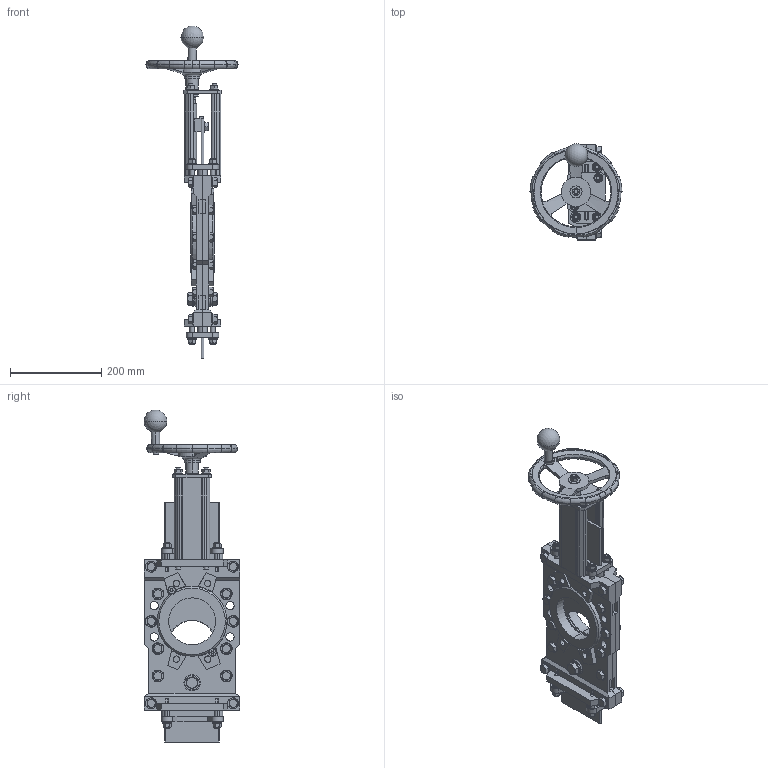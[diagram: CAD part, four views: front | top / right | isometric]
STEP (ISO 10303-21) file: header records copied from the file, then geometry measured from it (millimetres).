
FILE_DESCRIPTION(('STEP AP203'),'1');
FILE_NAME('G:/KONSTRUK/3-d block för CD/HG VALVE/HAND WHEEL/HG100-PN10-HW.stp','2012-12-03T09:01:36',(' '),(' '),'Spatial InterOp 3D',' ',' ');
FILE_SCHEMA(('CONFIG_CONTROL_DESIGN'));
Length unit declared in the file: millimetre
Products named in the file (2): 1; 2
Bounding box: 202 x 210.5 x 728.81 mm (x, y, z)
Volume: 3080431.8 mm3; surface area: 847511.3 mm2
Topology: 2 solids, 9 shells, 2256 faces, 5415 edges, 3408 vertices
Faces by surface type: plane 875, cone 701, cylinder 622, torus 50, bspline 6, sphere 2
Entity records: 72338 total; most frequent: CARTESIAN_POINT 19498, DIRECTION 11288, ORIENTED_EDGE 10806, EDGE_CURVE 5403, AXIS2_PLACEMENT_3D 4568, VERTEX_POINT 3408, EDGE_LOOP 2597, CIRCLE 2303
